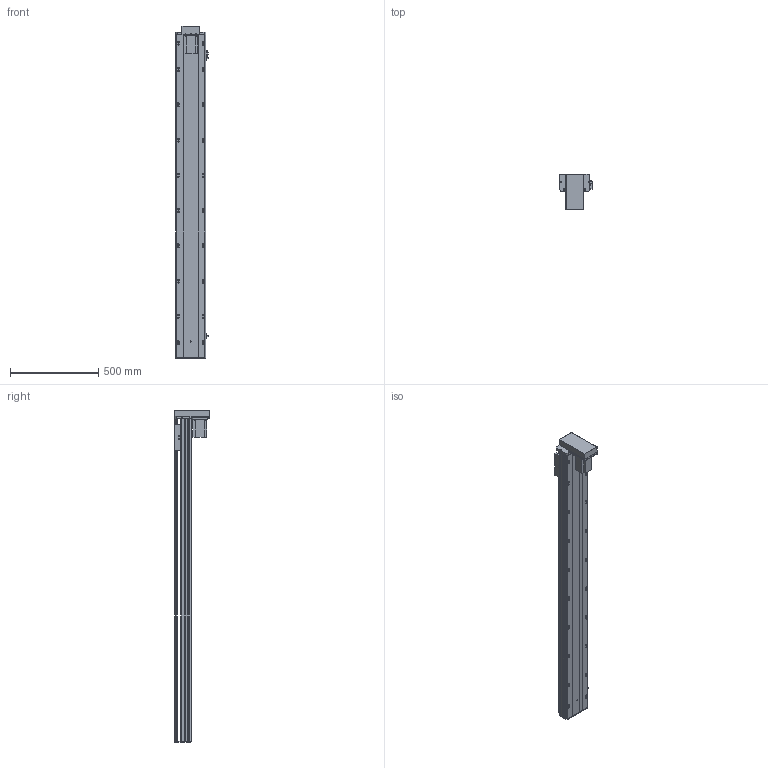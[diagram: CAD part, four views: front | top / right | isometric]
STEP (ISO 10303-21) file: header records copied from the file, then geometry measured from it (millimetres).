
FILE_DESCRIPTION (( 'STEP AP203' ), '1' );
FILE_NAME ('Y170-D10-S1600-BM-P750W.STEP', '2020-01-22T03:35:25', ( '微软用户' ), ( '微软中国' ), 'SwSTEP 2.0', 'SolidWorks 2017', '' );
FILE_SCHEMA (( 'CONFIG_CONTROL_DESIGN' ));
Length unit declared in the file: millimetre
Products named in the file (12): 侂狟750W; Y100-135俋离換覜ん; Y170-D10-S1600-BM-P750W; EGH20賑輸_蕼偞; Y雄赽釱-耜蚾; Y170-陔遴奻裔-BR; 170-BM耜蚾蟀諉啣; Y170-BM--P750W楊擘啣; Y170耜裔--準---; -BM俋袗; 170--掛极-BR; YD-Y100-135-新外置传感挡片(通用）
Assembly tree (14 placements, depth 2):
  Y170-D10-S1600-BM-P750W
    Y170耜裔--準---
    170--掛极-BR
    侂狟750W
    EGH20賑輸_蕼偞  x2
    Y雄赽釱-耜蚾
    Y170-陔遴奻裔-BR
    170-BM耜蚾蟀諉啣
    Y170-BM--P750W楊擘啣
    -BM俋袗
    YD-Y100-135-新外置传感挡片(通用）
    Y100-135俋离換覜ん  x3
Bounding box: 183.5 x 203.5 x 1883.5 mm (x, y, z)
Volume: 8288419.2 mm3; surface area: 2924219.2 mm2
Topology: 14 solids, 14 shells, 954 faces, 2748 edges, 1814 vertices
Faces by surface type: cylinder 502, plane 436, cone 16
Entity records: 30906 total; most frequent: CARTESIAN_POINT 5679, DIRECTION 5064, ORIENTED_EDGE 4992, EDGE_CURVE 2496, AXIS2_PLACEMENT_3D 1811, VERTEX_POINT 1658, LINE 1442, VECTOR 1442
